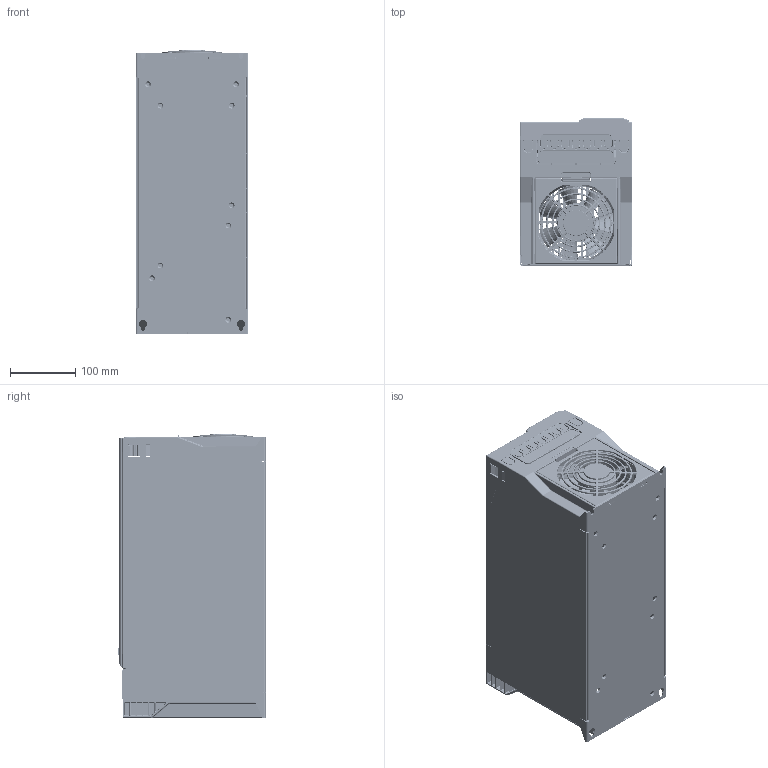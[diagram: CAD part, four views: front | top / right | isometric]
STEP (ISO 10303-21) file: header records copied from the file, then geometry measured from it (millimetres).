
FILE_DESCRIPTION(/* description */ (''),/* implementation_level */ '2;1');
FILE_NAME(/* name */ 'C:\Users\U390257\OneDrive - Danfoss\Documents\Работа\Текущие задачи\2022.04.26 Veichi 3D\Готовые модели\ac300-t3-030_037-3d\ac300-t3-030_037-3d_yellow.stp',/* time_stamp */ '2022-04-27T12:55:40+03:00',/* author */ ('U390257'),/* organization */ (''),/* preprocessor_version */ 'ST-DEVELOPER v18.1',/* originating_system */ 'Autodesk Inventor 2020',/* authorisation */ '');
FILE_SCHEMA (('AUTOMOTIVE_DESIGN { 1 0 10303 214 3 1 1 }'));
Products named in the file (10): ac300-t3-030_037-3d_yellow; ac300-t3-030_037-3d; VEDAVFD; display; display_1; knopka_prg; knopka_ust_pusk; knopka_ust_stop; knopka_ust_vybor; knopka_up
Assembly tree (10 placements, depth 3):
  ac300-t3-030_037-3d_yellow
    ac300-t3-030_037-3d
    VEDAVFD
    display
      display_1
      knopka_prg
      knopka_up  x2
      knopka_ust_pusk
      knopka_ust_stop
      knopka_ust_vybor
Bounding box: 172.73 x 225.3 x 433.5 mm (x, y, z)
Volume: 1782441.5 mm3; surface area: 1496386.9 mm2
Topology: 97 solids, 98 shells, 14998 faces, 39574 edges, 25441 vertices
Faces by surface type: plane 8820, bspline 3448, cylinder 2326, cone 185, torus 164, sphere 55
Full cylindrical faces by diameter (mm): 0.1 x4, 0.2 x30, 0.5 x22, 0.762 x8, 0.9 x8, 1 x2, 1.5 x12, 1.6 x2, 2.1 x1, 2.5 x31, 2.6 x2, 3 x10, 3.3 x6, 3.8 x20, 4 x2, 4.5 x11, 5 x13, 5.039 x2, 5.3 x1, 5.6 x2, 6 x11, 6.35 x3, 9 x2, 9.039 x2, 10 x1, 15 x1, 50 x1, 60 x1, 116 x1
Entity records: 563344 total; most frequent: CARTESIAN_POINT 191881, ORIENTED_EDGE 78986, DIRECTION 66506, EDGE_CURVE 39493, LINE 26968, VECTOR 26968, VERTEX_POINT 25409, AXIS2_PLACEMENT_3D 19769
